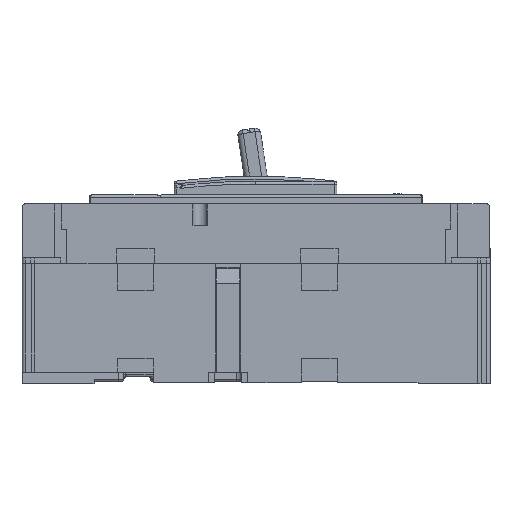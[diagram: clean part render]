
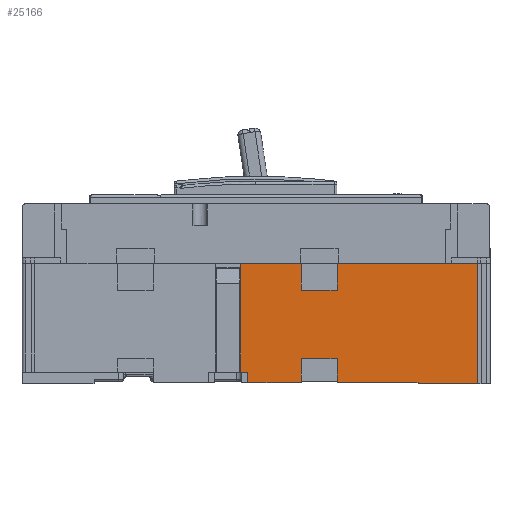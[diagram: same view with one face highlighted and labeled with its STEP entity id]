
A CAD part, left-side view. The second image highlights one B-rep face of the part: STEP entity #25166.
In plain terms, the highlighted planar face has unit normal (-1, 0, 0).
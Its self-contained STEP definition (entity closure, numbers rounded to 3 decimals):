
#18967=AXIS2_PLACEMENT_3D('Plane Axis2P3D',#18964,#18965,#18966) ;
#17611=CARTESIAN_POINT('Vertex',(-69.85,-49.,0.)) ;
#17614=CARTESIAN_POINT('Line Origine',(-69.85,-49.,0.25)) ;
#17618=CARTESIAN_POINT('Vertex',(-69.85,-49.,0.5)) ;
#18964=CARTESIAN_POINT('Axis2P3D Location',(-69.85,171.,0.)) ;
#24106=CARTESIAN_POINT('Vertex',(-69.85,-82.,0.)) ;
#24109=CARTESIAN_POINT('Line Origine',(-69.85,-65.5,0.)) ;
#25008=CARTESIAN_POINT('Line Origine',(-69.85,-26.55,0.5)) ;
#25012=CARTESIAN_POINT('Vertex',(-69.85,-4.1,0.5)) ;
#25035=CARTESIAN_POINT('Line Origine',(-69.85,49.202,6.5)) ;
#25039=CARTESIAN_POINT('Vertex',(-69.85,49.404,6.5)) ;
#25041=CARTESIAN_POINT('Vertex',(-69.85,49.,6.5)) ;
#25044=CARTESIAN_POINT('Line Origine',(-69.85,47.25,6.5)) ;
#25048=CARTESIAN_POINT('Vertex',(-69.85,45.5,6.5)) ;
#25051=CARTESIAN_POINT('Line Origine',(-69.85,45.5,3.5)) ;
#25055=CARTESIAN_POINT('Vertex',(-69.85,45.5,0.5)) ;
#25058=CARTESIAN_POINT('Line Origine',(-69.85,30.7,0.5)) ;
#25062=CARTESIAN_POINT('Vertex',(-69.85,15.9,0.5)) ;
#25065=CARTESIAN_POINT('Line Origine',(-69.85,15.9,1.)) ;
#25069=CARTESIAN_POINT('Vertex',(-69.85,15.9,1.5)) ;
#25072=CARTESIAN_POINT('Line Origine',(-69.85,15.9,7.75)) ;
#25076=CARTESIAN_POINT('Vertex',(-69.85,15.9,14.)) ;
#25079=CARTESIAN_POINT('Line Origine',(-69.85,5.9,14.)) ;
#25083=CARTESIAN_POINT('Vertex',(-69.85,-4.1,14.)) ;
#25086=CARTESIAN_POINT('Line Origine',(-69.85,-4.1,7.75)) ;
#25090=CARTESIAN_POINT('Vertex',(-69.85,-4.1,1.5)) ;
#25093=CARTESIAN_POINT('Line Origine',(-69.85,-4.1,1.)) ;
#25098=CARTESIAN_POINT('Line Origine',(-69.85,-82.,33.5)) ;
#25102=CARTESIAN_POINT('Vertex',(-69.85,-82.,67.)) ;
#25105=CARTESIAN_POINT('Line Origine',(-69.85,-43.05,67.)) ;
#25109=CARTESIAN_POINT('Vertex',(-69.85,-4.1,67.)) ;
#25112=CARTESIAN_POINT('Line Origine',(-69.85,-4.1,59.5)) ;
#25116=CARTESIAN_POINT('Vertex',(-69.85,-4.1,52.)) ;
#25119=CARTESIAN_POINT('Line Origine',(-69.85,5.9,52.)) ;
#25123=CARTESIAN_POINT('Vertex',(-69.85,15.9,52.)) ;
#25126=CARTESIAN_POINT('Line Origine',(-69.85,15.9,59.5)) ;
#25130=CARTESIAN_POINT('Vertex',(-69.85,15.9,67.)) ;
#25133=CARTESIAN_POINT('Line Origine',(-69.85,32.652,67.)) ;
#25137=CARTESIAN_POINT('Vertex',(-69.85,49.404,67.)) ;
#25140=CARTESIAN_POINT('Line Origine',(-69.85,49.404,36.75)) ;
#17615=DIRECTION('Vector Direction',(0.,0.,1.)) ;
#18965=DIRECTION('Axis2P3D Direction',(-1.,0.,0.)) ;
#18966=DIRECTION('Axis2P3D XDirection',(0.,-1.,0.)) ;
#24110=DIRECTION('Vector Direction',(0.,-1.,0.)) ;
#25009=DIRECTION('Vector Direction',(0.,1.,0.)) ;
#25036=DIRECTION('Vector Direction',(0.,1.,0.)) ;
#25045=DIRECTION('Vector Direction',(0.,1.,0.)) ;
#25052=DIRECTION('Vector Direction',(0.,0.,-1.)) ;
#25059=DIRECTION('Vector Direction',(0.,1.,0.)) ;
#25066=DIRECTION('Vector Direction',(0.,0.,1.)) ;
#25073=DIRECTION('Vector Direction',(0.,0.,1.)) ;
#25080=DIRECTION('Vector Direction',(0.,1.,0.)) ;
#25087=DIRECTION('Vector Direction',(0.,0.,-1.)) ;
#25094=DIRECTION('Vector Direction',(0.,0.,-1.)) ;
#25099=DIRECTION('Vector Direction',(0.,0.,-1.)) ;
#25106=DIRECTION('Vector Direction',(0.,-1.,0.)) ;
#25113=DIRECTION('Vector Direction',(0.,0.,-1.)) ;
#25120=DIRECTION('Vector Direction',(0.,-1.,0.)) ;
#25127=DIRECTION('Vector Direction',(0.,0.,1.)) ;
#25134=DIRECTION('Vector Direction',(0.,-1.,0.)) ;
#25141=DIRECTION('Vector Direction',(0.,0.,-1.)) ;
#17616=VECTOR('Line Direction',#17615,1.) ;
#24111=VECTOR('Line Direction',#24110,1.) ;
#25010=VECTOR('Line Direction',#25009,1.) ;
#25037=VECTOR('Line Direction',#25036,1.) ;
#25046=VECTOR('Line Direction',#25045,1.) ;
#25053=VECTOR('Line Direction',#25052,1.) ;
#25060=VECTOR('Line Direction',#25059,1.) ;
#25067=VECTOR('Line Direction',#25066,1.) ;
#25074=VECTOR('Line Direction',#25073,1.) ;
#25081=VECTOR('Line Direction',#25080,1.) ;
#25088=VECTOR('Line Direction',#25087,1.) ;
#25095=VECTOR('Line Direction',#25094,1.) ;
#25100=VECTOR('Line Direction',#25099,1.) ;
#25107=VECTOR('Line Direction',#25106,1.) ;
#25114=VECTOR('Line Direction',#25113,1.) ;
#25121=VECTOR('Line Direction',#25120,1.) ;
#25128=VECTOR('Line Direction',#25127,1.) ;
#25135=VECTOR('Line Direction',#25134,1.) ;
#25142=VECTOR('Line Direction',#25141,1.) ;
#25146=ORIENTED_EDGE('',*,*,#25043,.T.) ;
#25147=ORIENTED_EDGE('',*,*,#25050,.T.) ;
#25148=ORIENTED_EDGE('',*,*,#25057,.T.) ;
#25149=ORIENTED_EDGE('',*,*,#25064,.F.) ;
#25150=ORIENTED_EDGE('',*,*,#25071,.T.) ;
#25151=ORIENTED_EDGE('',*,*,#25078,.T.) ;
#25152=ORIENTED_EDGE('',*,*,#25085,.T.) ;
#25153=ORIENTED_EDGE('',*,*,#25092,.T.) ;
#25154=ORIENTED_EDGE('',*,*,#25097,.F.) ;
#25155=ORIENTED_EDGE('',*,*,#25014,.F.) ;
#25156=ORIENTED_EDGE('',*,*,#17620,.F.) ;
#25157=ORIENTED_EDGE('',*,*,#24113,.T.) ;
#25158=ORIENTED_EDGE('',*,*,#25104,.F.) ;
#25159=ORIENTED_EDGE('',*,*,#25111,.F.) ;
#25160=ORIENTED_EDGE('',*,*,#25118,.T.) ;
#25161=ORIENTED_EDGE('',*,*,#25125,.T.) ;
#25162=ORIENTED_EDGE('',*,*,#25132,.T.) ;
#25163=ORIENTED_EDGE('',*,*,#25139,.F.) ;
#25164=ORIENTED_EDGE('',*,*,#25144,.T.) ;
#25166=ADVANCED_FACE('PartBody',(#25165),#18968,.T.) ;
#17620=EDGE_CURVE('',#17612,#17619,#17617,.T.) ;
#24113=EDGE_CURVE('',#17612,#24107,#24112,.T.) ;
#25014=EDGE_CURVE('',#17619,#25013,#25011,.T.) ;
#25043=EDGE_CURVE('',#25040,#25042,#25038,.F.) ;
#25050=EDGE_CURVE('',#25042,#25049,#25047,.F.) ;
#25057=EDGE_CURVE('',#25049,#25056,#25054,.T.) ;
#25064=EDGE_CURVE('',#25063,#25056,#25061,.T.) ;
#25071=EDGE_CURVE('',#25063,#25070,#25068,.T.) ;
#25078=EDGE_CURVE('',#25070,#25077,#25075,.T.) ;
#25085=EDGE_CURVE('',#25077,#25084,#25082,.F.) ;
#25092=EDGE_CURVE('',#25084,#25091,#25089,.T.) ;
#25097=EDGE_CURVE('',#25013,#25091,#25096,.F.) ;
#25104=EDGE_CURVE('',#25103,#24107,#25101,.T.) ;
#25111=EDGE_CURVE('',#25110,#25103,#25108,.T.) ;
#25118=EDGE_CURVE('',#25110,#25117,#25115,.T.) ;
#25125=EDGE_CURVE('',#25117,#25124,#25122,.F.) ;
#25132=EDGE_CURVE('',#25124,#25131,#25129,.T.) ;
#25139=EDGE_CURVE('',#25138,#25131,#25136,.T.) ;
#25144=EDGE_CURVE('',#25138,#25040,#25143,.T.) ;
#25145=EDGE_LOOP('',(#25146,#25147,#25148,#25149,#25150,#25151,#25152,#25153,#25154,#25155,#25156,#25157,#25158,#25159,#25160,#25161,#25162,#25163,#25164)) ;
#25165=FACE_OUTER_BOUND('',#25145,.T.) ;
#17617=LINE('Line',#17614,#17616) ;
#24112=LINE('Line',#24109,#24111) ;
#25011=LINE('Line',#25008,#25010) ;
#25038=LINE('Line',#25035,#25037) ;
#25047=LINE('Line',#25044,#25046) ;
#25054=LINE('Line',#25051,#25053) ;
#25061=LINE('Line',#25058,#25060) ;
#25068=LINE('Line',#25065,#25067) ;
#25075=LINE('Line',#25072,#25074) ;
#25082=LINE('Line',#25079,#25081) ;
#25089=LINE('Line',#25086,#25088) ;
#25096=LINE('Line',#25093,#25095) ;
#25101=LINE('Line',#25098,#25100) ;
#25108=LINE('Line',#25105,#25107) ;
#25115=LINE('Line',#25112,#25114) ;
#25122=LINE('Line',#25119,#25121) ;
#25129=LINE('Line',#25126,#25128) ;
#25136=LINE('Line',#25133,#25135) ;
#25143=LINE('Line',#25140,#25142) ;
#18968=PLANE('',#18967) ;
#17612=VERTEX_POINT('',#17611) ;
#17619=VERTEX_POINT('',#17618) ;
#24107=VERTEX_POINT('',#24106) ;
#25013=VERTEX_POINT('',#25012) ;
#25040=VERTEX_POINT('',#25039) ;
#25042=VERTEX_POINT('',#25041) ;
#25049=VERTEX_POINT('',#25048) ;
#25056=VERTEX_POINT('',#25055) ;
#25063=VERTEX_POINT('',#25062) ;
#25070=VERTEX_POINT('',#25069) ;
#25077=VERTEX_POINT('',#25076) ;
#25084=VERTEX_POINT('',#25083) ;
#25091=VERTEX_POINT('',#25090) ;
#25103=VERTEX_POINT('',#25102) ;
#25110=VERTEX_POINT('',#25109) ;
#25117=VERTEX_POINT('',#25116) ;
#25124=VERTEX_POINT('',#25123) ;
#25131=VERTEX_POINT('',#25130) ;
#25138=VERTEX_POINT('',#25137) ;
